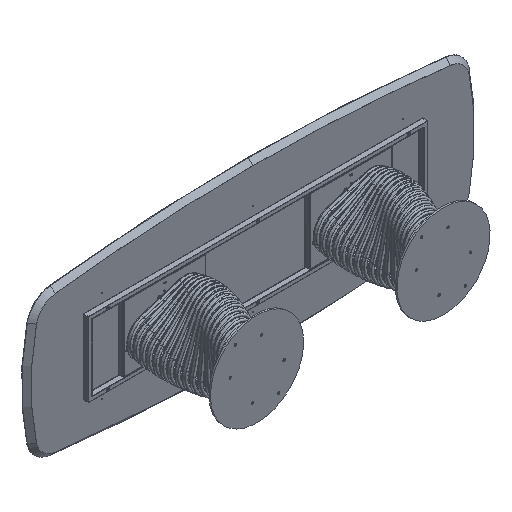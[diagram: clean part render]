
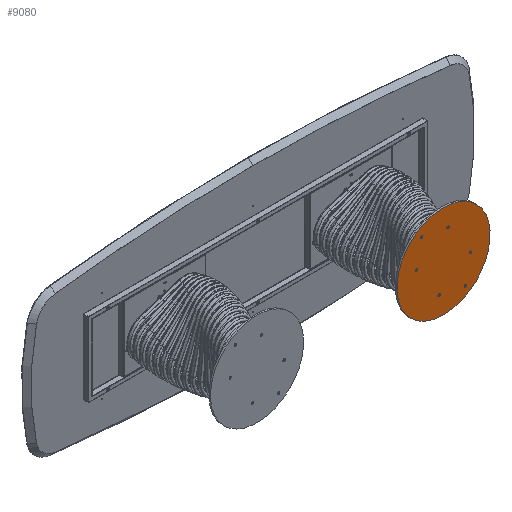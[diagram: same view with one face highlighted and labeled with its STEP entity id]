
A CAD part, isometric view. The second image highlights one B-rep face of the part: STEP entity #9080.
In plain terms, the highlighted planar face has unit normal (0, -1, 0).
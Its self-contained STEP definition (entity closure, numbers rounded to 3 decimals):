
#151 = DIRECTION ( 'NONE',  ( 0., 1., 0. ) ) ;
#269 = ORIENTED_EDGE ( 'NONE', *, *, #7615, .F. ) ;
#390 = CARTESIAN_POINT ( 'NONE',  ( -150., 0., 142.5 ) ) ;
#493 = DIRECTION ( 'NONE',  ( 0., 1., 0. ) ) ;
#508 = DIRECTION ( 'NONE',  ( 0., 0., -1. ) ) ;
#549 = CARTESIAN_POINT ( 'NONE',  ( 150., 0., 133.85 ) ) ;
#821 = CIRCLE ( 'NONE', #12310, 350. ) ;
#993 = CARTESIAN_POINT ( 'NONE',  ( -290., 0., 0. ) ) ;
#1076 = AXIS2_PLACEMENT_3D ( 'NONE', #11029, #22208, #12952 ) ;
#1251 = ORIENTED_EDGE ( 'NONE', *, *, #16918, .F. ) ;
#1347 = DIRECTION ( 'NONE',  ( 0., 0., -1. ) ) ;
#1470 = DIRECTION ( 'NONE',  ( 0., 0., -1. ) ) ;
#1569 = DIRECTION ( 'NONE',  ( 0., -1., 0. ) ) ;
#1590 = AXIS2_PLACEMENT_3D ( 'NONE', #1636, #5362, #23618 ) ;
#1636 = CARTESIAN_POINT ( 'NONE',  ( -150., 0., 142.5 ) ) ;
#1753 = VERTEX_POINT ( 'NONE', #16038 ) ;
#1948 = FACE_BOUND ( 'NONE', #7109, .T. ) ;
#2304 = PLANE ( 'NONE',  #2653 ) ;
#2342 = VERTEX_POINT ( 'NONE', #20727 ) ;
#2380 = CARTESIAN_POINT ( 'NONE',  ( 0., 0., -350. ) ) ;
#2618 = CARTESIAN_POINT ( 'NONE',  ( 290., 0., 8.65 ) ) ;
#2653 = AXIS2_PLACEMENT_3D ( 'NONE', #9616, #151, #14777 ) ;
#2892 = ORIENTED_EDGE ( 'NONE', *, *, #14636, .F. ) ;
#3021 = VERTEX_POINT ( 'NONE', #21625 ) ;
#3876 = VERTEX_POINT ( 'NONE', #21547 ) ;
#3936 = DIRECTION ( 'NONE',  ( 0., -1., 0. ) ) ;
#3947 = AXIS2_PLACEMENT_3D ( 'NONE', #18781, #13604, #7735 ) ;
#4123 = CIRCLE ( 'NONE', #6404, 8.65 ) ;
#4594 = ORIENTED_EDGE ( 'NONE', *, *, #11585, .F. ) ;
#4629 = AXIS2_PLACEMENT_3D ( 'NONE', #5739, #3936, #18564 ) ;
#5047 = EDGE_CURVE ( 'NONE', #3876, #7329, #11395, .T. ) ;
#5362 = DIRECTION ( 'NONE',  ( 0., -1., 0. ) ) ;
#5456 = EDGE_CURVE ( 'NONE', #7329, #3876, #4123, .T. ) ;
#5670 = FACE_BOUND ( 'NONE', #20317, .T. ) ;
#5739 = CARTESIAN_POINT ( 'NONE',  ( 150., 0., 142.5 ) ) ;
#5913 = AXIS2_PLACEMENT_3D ( 'NONE', #390, #17064, #508 ) ;
#6042 = ORIENTED_EDGE ( 'NONE', *, *, #15697, .F. ) ;
#6404 = AXIS2_PLACEMENT_3D ( 'NONE', #993, #17320, #1347 ) ;
#6411 = VERTEX_POINT ( 'NONE', #8741 ) ;
#6483 = VERTEX_POINT ( 'NONE', #2380 ) ;
#6937 = ORIENTED_EDGE ( 'NONE', *, *, #18812, .F. ) ;
#7109 = EDGE_LOOP ( 'NONE', ( #23514, #4594 ) ) ;
#7329 = VERTEX_POINT ( 'NONE', #13681 ) ;
#7342 = CARTESIAN_POINT ( 'NONE',  ( 0., 0., 0. ) ) ;
#7460 = FACE_BOUND ( 'NONE', #9329, .T. ) ;
#7615 = EDGE_CURVE ( 'NONE', #9092, #3021, #11435, .T. ) ;
#7735 = DIRECTION ( 'NONE',  ( 0., 0., 1. ) ) ;
#7773 = CIRCLE ( 'NONE', #3947, 350. ) ;
#8647 = DIRECTION ( 'NONE',  ( 0., 0., -1. ) ) ;
#8741 = CARTESIAN_POINT ( 'NONE',  ( -150., 0., 151.15 ) ) ;
#9062 = CIRCLE ( 'NONE', #14807, 8.65 ) ;
#9080 = ADVANCED_FACE ( 'NONE', ( #11067, #1948, #16580, #7460, #5670, #22482, #11430 ), #2304, .F. ) ;
#9092 = VERTEX_POINT ( 'NONE', #13569 ) ;
#9282 = CIRCLE ( 'NONE', #16184, 8.65 ) ;
#9329 = EDGE_LOOP ( 'NONE', ( #16615, #10705 ) ) ;
#9599 = CIRCLE ( 'NONE', #23033, 8.65 ) ;
#9616 = CARTESIAN_POINT ( 'NONE',  ( 0., 0., 0. ) ) ;
#9619 = EDGE_LOOP ( 'NONE', ( #1251, #269 ) ) ;
#9696 = DIRECTION ( 'NONE',  ( 0., 0., -1. ) ) ;
#9861 = VERTEX_POINT ( 'NONE', #15050 ) ;
#9936 = DIRECTION ( 'NONE',  ( 0., 0., -1. ) ) ;
#10163 = DIRECTION ( 'NONE',  ( 0., -1., 0. ) ) ;
#10479 = DIRECTION ( 'NONE',  ( 0., 0., -1. ) ) ;
#10664 = EDGE_CURVE ( 'NONE', #14828, #17811, #9599, .T. ) ;
#10705 = ORIENTED_EDGE ( 'NONE', *, *, #18760, .F. ) ;
#10816 = DIRECTION ( 'NONE',  ( 0., -1., 0. ) ) ;
#11029 = CARTESIAN_POINT ( 'NONE',  ( 150., 0., -142.5 ) ) ;
#11067 = FACE_BOUND ( 'NONE', #15463, .T. ) ;
#11395 = CIRCLE ( 'NONE', #18268, 8.65 ) ;
#11430 = FACE_OUTER_BOUND ( 'NONE', #12541, .T. ) ;
#11435 = CIRCLE ( 'NONE', #1076, 8.65 ) ;
#11585 = EDGE_CURVE ( 'NONE', #14421, #1753, #13479, .T. ) ;
#11624 = CARTESIAN_POINT ( 'NONE',  ( -290., 0., 0. ) ) ;
#11879 = EDGE_CURVE ( 'NONE', #17811, #14828, #23031, .T. ) ;
#12088 = CIRCLE ( 'NONE', #23602, 8.65 ) ;
#12310 = AXIS2_PLACEMENT_3D ( 'NONE', #7342, #493, #13103 ) ;
#12516 = DIRECTION ( 'NONE',  ( 0., -1., 0. ) ) ;
#12541 = EDGE_LOOP ( 'NONE', ( #17878, #6042 ) ) ;
#12952 = DIRECTION ( 'NONE',  ( 0., 0., -1. ) ) ;
#13103 = DIRECTION ( 'NONE',  ( 0., 0., 1. ) ) ;
#13479 = CIRCLE ( 'NONE', #17294, 8.65 ) ;
#13510 = EDGE_CURVE ( 'NONE', #6483, #2342, #7773, .T. ) ;
#13569 = CARTESIAN_POINT ( 'NONE',  ( 150., 0., -133.85 ) ) ;
#13604 = DIRECTION ( 'NONE',  ( 0., 1., 0. ) ) ;
#13681 = CARTESIAN_POINT ( 'NONE',  ( -290., 0., 8.65 ) ) ;
#14421 = VERTEX_POINT ( 'NONE', #19807 ) ;
#14512 = ORIENTED_EDGE ( 'NONE', *, *, #11879, .F. ) ;
#14636 = EDGE_CURVE ( 'NONE', #6411, #9861, #19599, .T. ) ;
#14764 = DIRECTION ( 'NONE',  ( 0., 0., -1. ) ) ;
#14777 = DIRECTION ( 'NONE',  ( 0., 0., 1. ) ) ;
#14807 = AXIS2_PLACEMENT_3D ( 'NONE', #21424, #12516, #10479 ) ;
#14828 = VERTEX_POINT ( 'NONE', #549 ) ;
#15050 = CARTESIAN_POINT ( 'NONE',  ( -150., 0., 133.85 ) ) ;
#15392 = CARTESIAN_POINT ( 'NONE',  ( -150., 0., -142.5 ) ) ;
#15463 = EDGE_LOOP ( 'NONE', ( #23042, #20882 ) ) ;
#15697 = EDGE_CURVE ( 'NONE', #2342, #6483, #821, .T. ) ;
#16038 = CARTESIAN_POINT ( 'NONE',  ( -150., 0., -151.15 ) ) ;
#16106 = CARTESIAN_POINT ( 'NONE',  ( 290., 0., -8.65 ) ) ;
#16184 = AXIS2_PLACEMENT_3D ( 'NONE', #19826, #10816, #1470 ) ;
#16287 = EDGE_LOOP ( 'NONE', ( #6937, #2892 ) ) ;
#16379 = VERTEX_POINT ( 'NONE', #2618 ) ;
#16580 = FACE_BOUND ( 'NONE', #9619, .T. ) ;
#16615 = ORIENTED_EDGE ( 'NONE', *, *, #23298, .F. ) ;
#16816 = CARTESIAN_POINT ( 'NONE',  ( 290., 0., 0. ) ) ;
#16918 = EDGE_CURVE ( 'NONE', #3021, #9092, #9282, .T. ) ;
#16978 = VERTEX_POINT ( 'NONE', #16106 ) ;
#17064 = DIRECTION ( 'NONE',  ( 0., -1., 0. ) ) ;
#17294 = AXIS2_PLACEMENT_3D ( 'NONE', #19063, #20997, #9936 ) ;
#17320 = DIRECTION ( 'NONE',  ( 0., -1., 0. ) ) ;
#17396 = CIRCLE ( 'NONE', #5913, 8.65 ) ;
#17811 = VERTEX_POINT ( 'NONE', #20649 ) ;
#17878 = ORIENTED_EDGE ( 'NONE', *, *, #13510, .F. ) ;
#18268 = AXIS2_PLACEMENT_3D ( 'NONE', #11624, #10163, #9696 ) ;
#18375 = DIRECTION ( 'NONE',  ( 0., -1., 0. ) ) ;
#18564 = DIRECTION ( 'NONE',  ( 0., 0., -1. ) ) ;
#18760 = EDGE_CURVE ( 'NONE', #16379, #16978, #22010, .T. ) ;
#18781 = CARTESIAN_POINT ( 'NONE',  ( 0., 0., 0. ) ) ;
#18812 = EDGE_CURVE ( 'NONE', #9861, #6411, #17396, .T. ) ;
#19035 = CARTESIAN_POINT ( 'NONE',  ( 150., 0., 142.5 ) ) ;
#19063 = CARTESIAN_POINT ( 'NONE',  ( -150., 0., -142.5 ) ) ;
#19461 = ORIENTED_EDGE ( 'NONE', *, *, #10664, .F. ) ;
#19599 = CIRCLE ( 'NONE', #1590, 8.65 ) ;
#19807 = CARTESIAN_POINT ( 'NONE',  ( -150., 0., -133.85 ) ) ;
#19826 = CARTESIAN_POINT ( 'NONE',  ( 150., 0., -142.5 ) ) ;
#20317 = EDGE_LOOP ( 'NONE', ( #19461, #14512 ) ) ;
#20450 = EDGE_CURVE ( 'NONE', #1753, #14421, #12088, .T. ) ;
#20494 = DIRECTION ( 'NONE',  ( 0., 0., -1. ) ) ;
#20649 = CARTESIAN_POINT ( 'NONE',  ( 150., 0., 151.15 ) ) ;
#20727 = CARTESIAN_POINT ( 'NONE',  ( 0., 0., 350. ) ) ;
#20738 = DIRECTION ( 'NONE',  ( 0., -1., 0. ) ) ;
#20882 = ORIENTED_EDGE ( 'NONE', *, *, #5456, .F. ) ;
#20997 = DIRECTION ( 'NONE',  ( 0., -1., 0. ) ) ;
#21424 = CARTESIAN_POINT ( 'NONE',  ( 290., 0., 0. ) ) ;
#21547 = CARTESIAN_POINT ( 'NONE',  ( -290., 0., -8.65 ) ) ;
#21622 = AXIS2_PLACEMENT_3D ( 'NONE', #16816, #18375, #14764 ) ;
#21625 = CARTESIAN_POINT ( 'NONE',  ( 150., 0., -151.15 ) ) ;
#22010 = CIRCLE ( 'NONE', #21622, 8.65 ) ;
#22208 = DIRECTION ( 'NONE',  ( 0., -1., 0. ) ) ;
#22482 = FACE_BOUND ( 'NONE', #16287, .T. ) ;
#23031 = CIRCLE ( 'NONE', #4629, 8.65 ) ;
#23033 = AXIS2_PLACEMENT_3D ( 'NONE', #19035, #20738, #20494 ) ;
#23042 = ORIENTED_EDGE ( 'NONE', *, *, #5047, .F. ) ;
#23298 = EDGE_CURVE ( 'NONE', #16978, #16379, #9062, .T. ) ;
#23514 = ORIENTED_EDGE ( 'NONE', *, *, #20450, .F. ) ;
#23602 = AXIS2_PLACEMENT_3D ( 'NONE', #15392, #1569, #8647 ) ;
#23618 = DIRECTION ( 'NONE',  ( 0., 0., -1. ) ) ;
